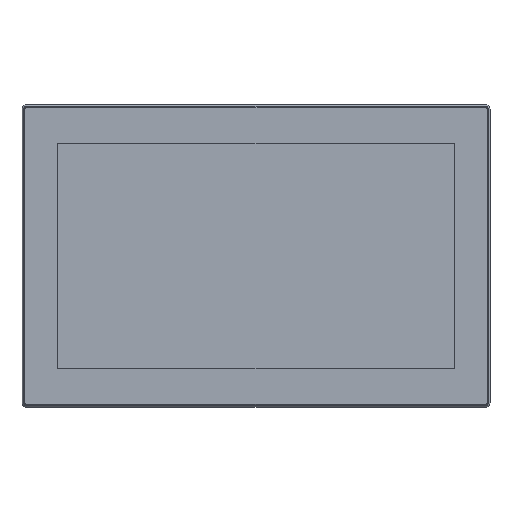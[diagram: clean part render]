
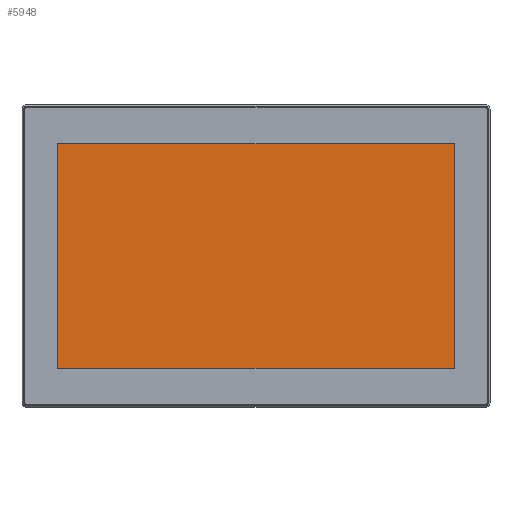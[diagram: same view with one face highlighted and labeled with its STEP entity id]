
A CAD part, top view. The second image highlights one B-rep face of the part: STEP entity #5948.
In plain terms, the highlighted planar face has unit normal (0, 0, 1).
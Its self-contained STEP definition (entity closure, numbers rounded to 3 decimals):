
#5948=ADVANCED_FACE('',(#10038),#7582,.F.);
#7582=PLANE('',#53138);
#10038=FACE_OUTER_BOUND('',#13075,.T.);
#13075=EDGE_LOOP('',(#27721,#27722,#27723,#27724));
#27721=ORIENTED_EDGE('',*,*,#40033,.F.);
#27722=ORIENTED_EDGE('',*,*,#40031,.F.);
#27723=ORIENTED_EDGE('',*,*,#40028,.F.);
#27724=ORIENTED_EDGE('',*,*,#40035,.F.);
#33050=VERTEX_POINT('',#98745);
#33051=VERTEX_POINT('',#98746);
#33052=VERTEX_POINT('',#98751);
#33053=VERTEX_POINT('',#98755);
#40028=EDGE_CURVE('',#33050,#33051,#44728,.T.);
#40031=EDGE_CURVE('',#33051,#33052,#44731,.T.);
#40033=EDGE_CURVE('',#33052,#33053,#44733,.T.);
#40035=EDGE_CURVE('',#33053,#33050,#44735,.T.);
#44728=LINE('',#98744,#49310);
#44731=LINE('',#98750,#49313);
#44733=LINE('',#98754,#49315);
#44735=LINE('',#98758,#49317);
#49310=VECTOR('',#64615,1.);
#49313=VECTOR('',#64620,1.);
#49315=VECTOR('',#64624,1.);
#49317=VECTOR('',#64628,1.);
#53138=AXIS2_PLACEMENT_3D('',#98760,#64631,#64632);
#64615=DIRECTION('',(0.,1.,0.));
#64620=DIRECTION('',(1.,0.,0.));
#64624=DIRECTION('',(0.,-1.,0.));
#64628=DIRECTION('',(-1.,0.,0.));
#64631=DIRECTION('',(0.,0.,-1.));
#64632=DIRECTION('',(1.,0.,0.));
#98744=CARTESIAN_POINT('',(31.,132.,64.125));
#98745=CARTESIAN_POINT('',(31.,34.35,64.125));
#98746=CARTESIAN_POINT('',(31.,229.65,64.125));
#98750=CARTESIAN_POINT('',(204.,229.65,64.125));
#98751=CARTESIAN_POINT('',(377.,229.65,64.125));
#98754=CARTESIAN_POINT('',(377.,132.,64.125));
#98755=CARTESIAN_POINT('',(377.,34.35,64.125));
#98758=CARTESIAN_POINT('',(204.,34.35,64.125));
#98760=CARTESIAN_POINT('',(204.,132.,64.125));
